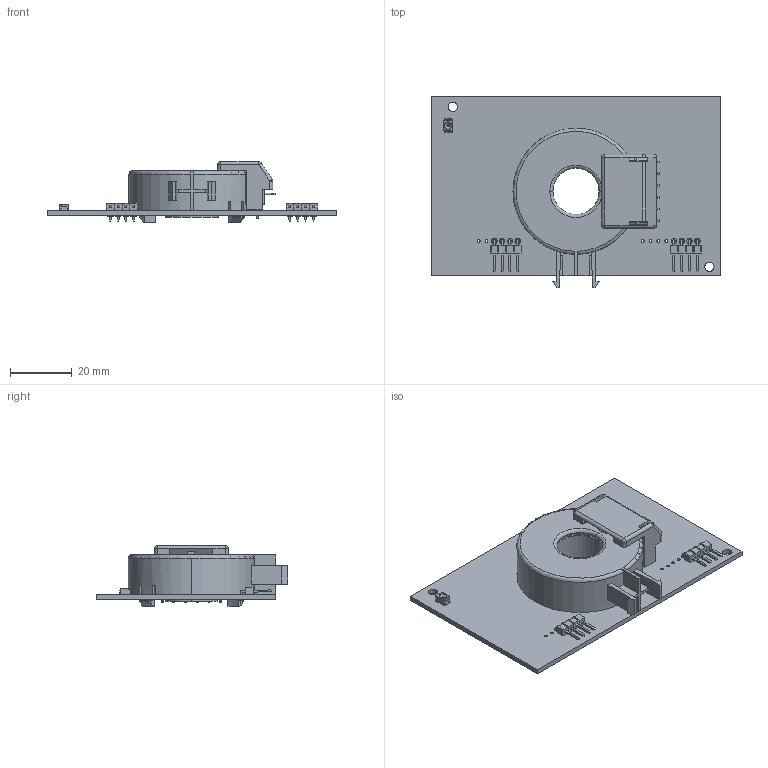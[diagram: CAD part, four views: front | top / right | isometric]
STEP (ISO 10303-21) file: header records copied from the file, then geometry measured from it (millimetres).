
FILE_DESCRIPTION (( 'STEP AP214' ), '1' );
FILE_NAME ('RCMB100.STEP', '2015-05-07T14:07:10', ( 'User' ), ( 'Bender' ), 'SwSTEP 2.0', 'SolidWorks 2015', '' );
FILE_SCHEMA (( 'AUTOMOTIVE_DESIGN' ));
Length unit declared in the file: millimetre
Products named in the file (19): A 348521; A 108604; Stromwandler_z870532.00; Abd152218.00.1e; Wa151879.11_10; Abschirmdeckel_z151953.00; Abschirmtrog_z151936.05; Kern_z870386.02; Z152244.01; Wa151879.11; RCMB100
Assembly tree (10 placements, depth 3):
  A 348521
  A 348521
  A 108604
  Abd152218.00.1e
  Wa151879.11
Bounding box: 94.2 x 62.4 x 19.7 mm (x, y, z)
Volume: 16634 mm3; surface area: 30406.8 mm2
Topology: 39 solids, 39 shells, 753 faces, 1838 edges, 1153 vertices
Faces by surface type: plane 484, cylinder 208, torus 39, sphere 20, cone 2
Entity records: 20808 total; most frequent: CARTESIAN_POINT 3301, DIRECTION 3190, ORIENTED_EDGE 3036, EDGE_CURVE 1518, AXIS2_PLACEMENT_3D 1094, LINE 1002, VECTOR 1002, VERTEX_POINT 961
